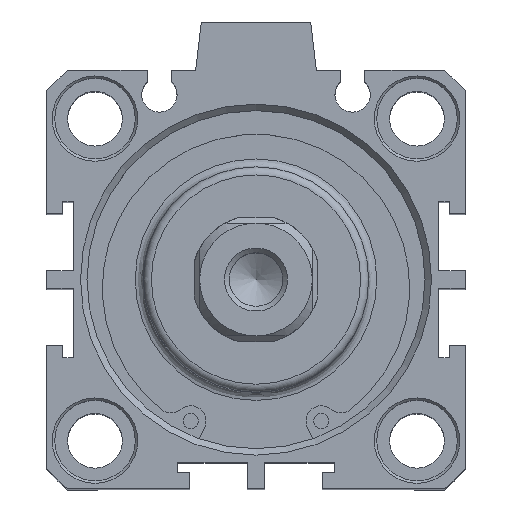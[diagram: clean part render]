
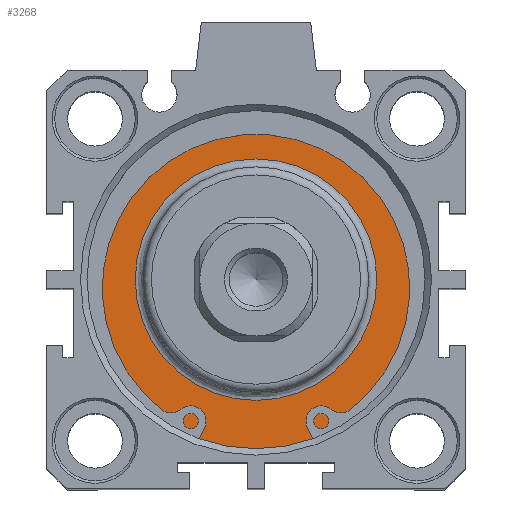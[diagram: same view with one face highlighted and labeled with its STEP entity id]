
A CAD part, top view. The second image highlights one B-rep face of the part: STEP entity #3268.
In plain terms, the highlighted planar face has unit normal (0, 0, 1).
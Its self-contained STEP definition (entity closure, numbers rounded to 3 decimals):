
#3217=CARTESIAN_POINT('',(0.598,16.555,72.4));
#3218=VERTEX_POINT('',#3217);
#3219=CARTESIAN_POINT('',(0.598,1.555,72.4));
#3220=DIRECTION('',(0.0,0.0,1.0));
#3221=DIRECTION('',(0.0,-1.0,0.0));
#3222=AXIS2_PLACEMENT_3D('',#3219,#3220,#3221);
#3223=CIRCLE('',#3222,15.0);
#3224=EDGE_CURVE('',#3218,#3218,#3223,.T.);
#3249=CARTESIAN_POINT('',(0.598,19.055,72.4));
#3250=DIRECTION('',(0.0,0.0,1.0));
#3251=DIRECTION('',(1.0,0.0,0.0));
#3252=AXIS2_PLACEMENT_3D('',#3249,#3250,#3251);
#3253=PLANE('',#3252);
#3254=CARTESIAN_POINT('',(0.598,22.555,72.4));
#3255=VERTEX_POINT('',#3254);
#3256=CARTESIAN_POINT('',(0.598,1.555,72.4));
#3257=DIRECTION('',(0.0,0.0,-1.0));
#3258=DIRECTION('',(0.0,1.0,0.0));
#3259=AXIS2_PLACEMENT_3D('',#3256,#3257,#3258);
#3260=CIRCLE('',#3259,21.);
#3261=EDGE_CURVE('',#3255,#3255,#3260,.T.);
#3262=ORIENTED_EDGE('',*,*,#3261,.F.);
#3263=EDGE_LOOP('',(#3262));
#3264=FACE_OUTER_BOUND('',#3263,.T.);
#3265=ORIENTED_EDGE('',*,*,#3224,.F.);
#3266=EDGE_LOOP('',(#3265));
#3267=FACE_BOUND('',#3266,.T.);
#3268=ADVANCED_FACE('',(#3264,#3267),#3253,.T.);
